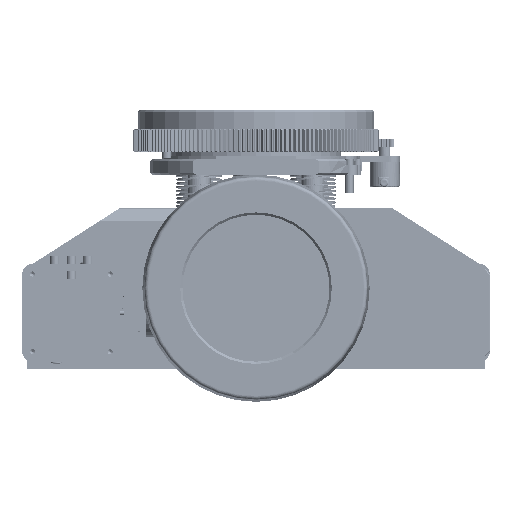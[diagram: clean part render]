
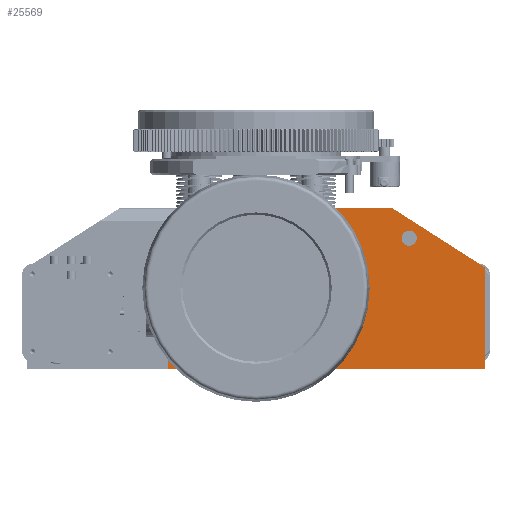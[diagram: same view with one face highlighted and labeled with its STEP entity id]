
A CAD part, front view. The second image highlights one B-rep face of the part: STEP entity #25569.
In plain terms, the highlighted planar face has unit normal (0, -1, 0).
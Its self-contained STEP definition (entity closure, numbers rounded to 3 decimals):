
#6627 = CARTESIAN_POINT ( 'NONE',  ( -205.038, -197.81, -148.5 ) ) ;
#7660 = AXIS2_PLACEMENT_3D ( 'NONE', #267801, #39054, #55632 ) ;
#9603 = DIRECTION ( 'NONE',  ( 0., 1., 0. ) ) ;
#11102 = VERTEX_POINT ( 'NONE', #71776 ) ;
#12706 = EDGE_CURVE ( 'NONE', #200914, #169943, #64820, .T. ) ;
#14102 = CARTESIAN_POINT ( 'NONE',  ( 112.67, -197.81, 33.5 ) ) ;
#14207 = DIRECTION ( 'NONE',  ( -1., 0., 0. ) ) ;
#20409 = LINE ( 'NONE', #125166, #48600 ) ;
#22901 = ORIENTED_EDGE ( 'NONE', *, *, #177284, .T. ) ;
#25569 = ADVANCED_FACE ( 'NONE', ( #160347, #207137, #249850 ), #244393, .F. ) ;
#38391 = DIRECTION ( 'NONE',  ( -0.707, 0., -0.707 ) ) ;
#38757 = VERTEX_POINT ( 'NONE', #158571 ) ;
#39054 = DIRECTION ( 'NONE',  ( 0., 1., 0. ) ) ;
#46095 = EDGE_CURVE ( 'NONE', #243662, #200914, #100708, .T. ) ;
#46486 = CARTESIAN_POINT ( 'NONE',  ( 212.67, -197.81, -148.5 ) ) ;
#48600 = VECTOR ( 'NONE', #38391, 1000. ) ;
#49926 = CARTESIAN_POINT ( 'NONE',  ( 212.67, -197.81, -15.111 ) ) ;
#55103 = EDGE_CURVE ( 'NONE', #38757, #228291, #20409, .T. ) ;
#55632 = DIRECTION ( 'NONE',  ( 0., 0., -1. ) ) ;
#57088 = ORIENTED_EDGE ( 'NONE', *, *, #172733, .F. ) ;
#64820 = LINE ( 'NONE', #86844, #151842 ) ;
#71776 = CARTESIAN_POINT ( 'NONE',  ( -89.538, -197.81, -134.5 ) ) ;
#76974 = CIRCLE ( 'NONE', #173735, 92. ) ;
#80009 = CARTESIAN_POINT ( 'NONE',  ( 50.462, -197.81, -148.5 ) ) ;
#83425 = VECTOR ( 'NONE', #92809, 1000. ) ;
#86844 = CARTESIAN_POINT ( 'NONE',  ( 212.67, -197.81, 155.5 ) ) ;
#89111 = LINE ( 'NONE', #153853, #177381 ) ;
#92809 = DIRECTION ( 'NONE',  ( 0.842, 0., -0.539 ) ) ;
#100708 = LINE ( 'NONE', #80009, #152597 ) ;
#104038 = EDGE_LOOP ( 'NONE', ( #57088, #22901, #233836, #221821, #188960, #123842 ) ) ;
#112564 = LINE ( 'NONE', #173237, #147191 ) ;
#117277 = DIRECTION ( 'NONE',  ( 0., 1., 0. ) ) ;
#123842 = ORIENTED_EDGE ( 'NONE', *, *, #12706, .T. ) ;
#125166 = CARTESIAN_POINT ( 'NONE',  ( -187.038, -197.81, 48.5 ) ) ;
#131127 = EDGE_CURVE ( 'NONE', #228291, #243662, #112564, .T. ) ;
#137955 = EDGE_CURVE ( 'NONE', #248326, #248326, #215166, .T. ) ;
#140672 = VERTEX_POINT ( 'NONE', #236023 ) ;
#147191 = VECTOR ( 'NONE', #196585, 1000. ) ;
#151842 = VECTOR ( 'NONE', #267821, 1000. ) ;
#152597 = VECTOR ( 'NONE', #164051, 1000. ) ;
#153853 = CARTESIAN_POINT ( 'NONE',  ( 50.462, -197.81, 63.5 ) ) ;
#154345 = DIRECTION ( 'NONE',  ( 0., 0., 1. ) ) ;
#158571 = CARTESIAN_POINT ( 'NONE',  ( -172.038, -197.81, 63.5 ) ) ;
#160347 = FACE_BOUND ( 'NONE', #206258, .T. ) ;
#164051 = DIRECTION ( 'NONE',  ( 1., 0., 0. ) ) ;
#169943 = VERTEX_POINT ( 'NONE', #49926 ) ;
#172733 = EDGE_CURVE ( 'NONE', #140672, #169943, #223630, .T. ) ;
#173237 = CARTESIAN_POINT ( 'NONE',  ( -205.038, -197.81, 155.5 ) ) ;
#173735 = AXIS2_PLACEMENT_3D ( 'NONE', #261945, #117277, #201274 ) ;
#177284 = EDGE_CURVE ( 'NONE', #140672, #38757, #89111, .T. ) ;
#177381 = VECTOR ( 'NONE', #14207, 1000. ) ;
#188960 = ORIENTED_EDGE ( 'NONE', *, *, #46095, .T. ) ;
#189041 = ORIENTED_EDGE ( 'NONE', *, *, #137955, .T. ) ;
#196585 = DIRECTION ( 'NONE',  ( 0., 0., -1. ) ) ;
#197454 = AXIS2_PLACEMENT_3D ( 'NONE', #242436, #9603, #154345 ) ;
#197559 = ORIENTED_EDGE ( 'NONE', *, *, #216155, .T. ) ;
#200914 = VERTEX_POINT ( 'NONE', #46486 ) ;
#201274 = DIRECTION ( 'NONE',  ( 0., 0., -1. ) ) ;
#202950 = CARTESIAN_POINT ( 'NONE',  ( 20.133, -197.81, 108.11 ) ) ;
#206258 = EDGE_LOOP ( 'NONE', ( #189041 ) ) ;
#207137 = FACE_BOUND ( 'NONE', #246817, .T. ) ;
#215166 = CIRCLE ( 'NONE', #197454, 10. ) ;
#216155 = EDGE_CURVE ( 'NONE', #11102, #11102, #76974, .T. ) ;
#221821 = ORIENTED_EDGE ( 'NONE', *, *, #131127, .T. ) ;
#223630 = LINE ( 'NONE', #202950, #83425 ) ;
#228291 = VERTEX_POINT ( 'NONE', #254417 ) ;
#233836 = ORIENTED_EDGE ( 'NONE', *, *, #55103, .T. ) ;
#236023 = CARTESIAN_POINT ( 'NONE',  ( 89.837, -197.81, 63.5 ) ) ;
#242436 = CARTESIAN_POINT ( 'NONE',  ( 112.67, -197.81, 23.5 ) ) ;
#243662 = VERTEX_POINT ( 'NONE', #6627 ) ;
#244393 = PLANE ( 'NONE',  #7660 ) ;
#246817 = EDGE_LOOP ( 'NONE', ( #197559 ) ) ;
#248326 = VERTEX_POINT ( 'NONE', #14102 ) ;
#249850 = FACE_OUTER_BOUND ( 'NONE', #104038, .T. ) ;
#254417 = CARTESIAN_POINT ( 'NONE',  ( -205.038, -197.81, 30.5 ) ) ;
#261945 = CARTESIAN_POINT ( 'NONE',  ( -89.538, -197.81, -42.5 ) ) ;
#267801 = CARTESIAN_POINT ( 'NONE',  ( 50.462, -197.81, 155.5 ) ) ;
#267821 = DIRECTION ( 'NONE',  ( 0., 0., 1. ) ) ;
